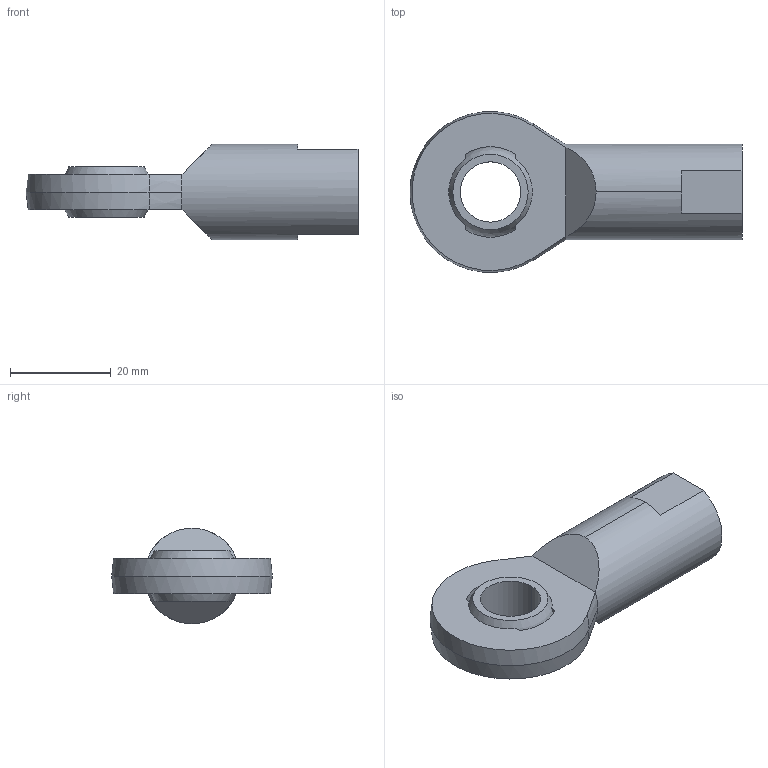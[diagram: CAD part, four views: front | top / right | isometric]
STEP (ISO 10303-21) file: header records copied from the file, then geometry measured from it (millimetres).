
FILE_DESCRIPTION (( 'STEP AP203' ), '1' );
FILE_NAME ('65880.W0112.step', '2014-02-06T18:35:02', ( 'User' ), ( '' ), 'SwSTEP 2.0', 'SolidWorks 2009', '' );
FILE_SCHEMA (( 'CONFIG_CONTROL_DESIGN' ));
Length unit declared in the file: millimetre
Products named in the file (3): 65880.W0112; Part1_65880.W0112; Part2_65880.W0112
Assembly tree (2 placements, depth 2):
  65880.W0112
    Part1_65880.W0112
    Part2_65880.W0112
Bounding box: 66 x 31.93 x 19 mm (x, y, z)
Volume: 11554.6 mm3; surface area: 6457 mm2
Topology: 2 solids, 2 shells, 45 faces, 108 edges, 67 vertices
Faces by surface type: plane 20, cylinder 10, sphere 8, cone 7
Entity records: 1616 total; most frequent: DIRECTION 253, CARTESIAN_POINT 245, ORIENTED_EDGE 208, AXIS2_PLACEMENT_3D 107, EDGE_CURVE 104, VERTEX_POINT 67, CIRCLE 57, EDGE_LOOP 53
